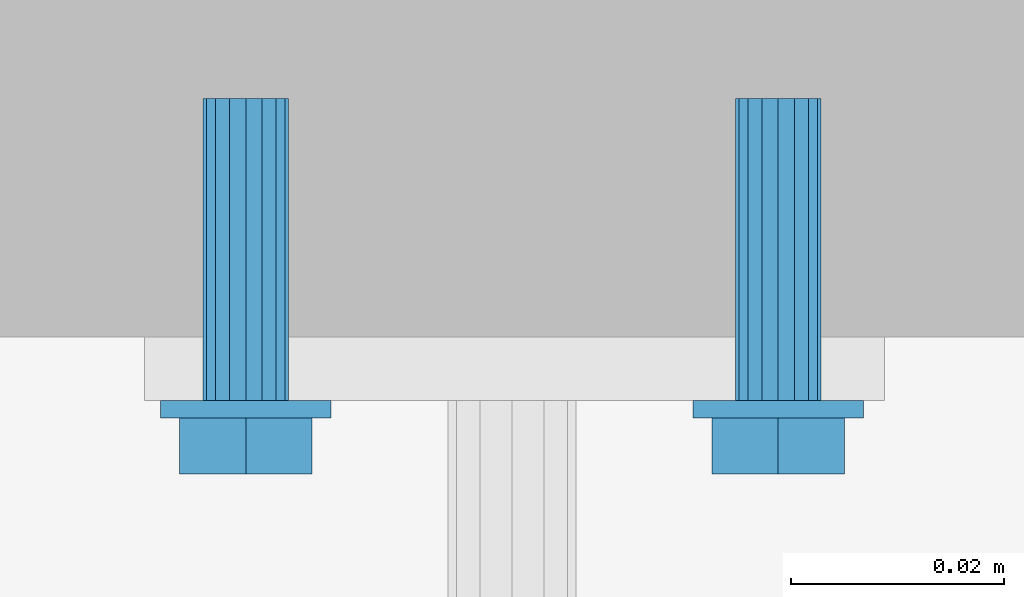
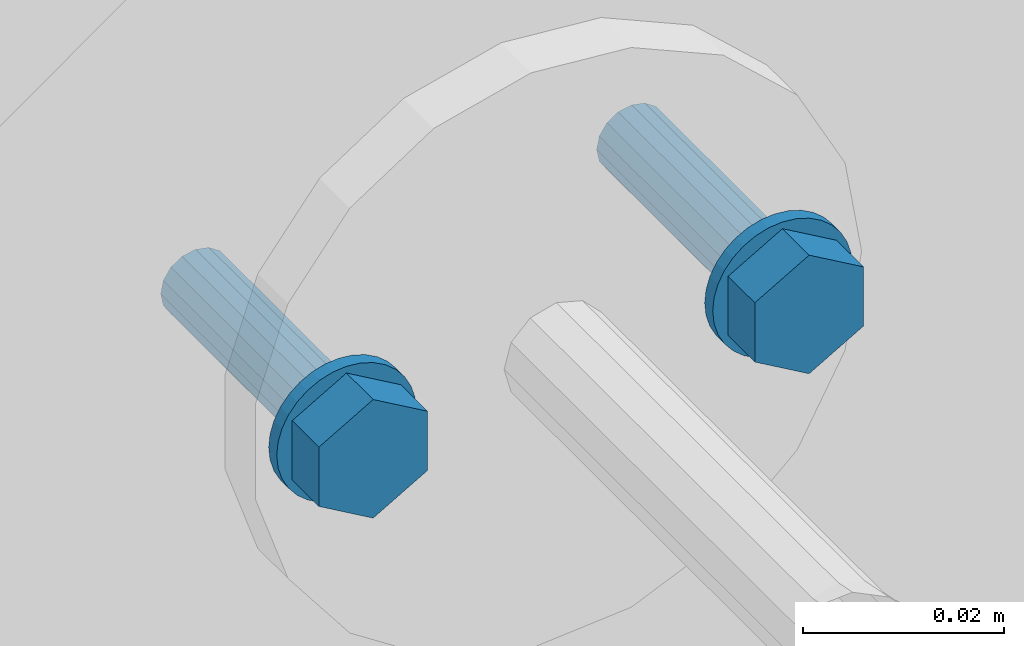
# One storey, part 364 of 410: 1 mechanical fastener.
"""IFC2X3 building model written with IfcOpenShell, lengths in millimetres."""

from ifc_helpers import new_model, entity, si_unit, converted_unit, origin_with_axes, place, context, project, spatial, faceted_brep, element, save


model = new_model("IFC2X3")

# Units and contexts
model_context = context("Model", 3, precision=1e-09, world=origin_with_axes())
ifc_project = project(units=[si_unit("LENGTHUNIT", "METRE", prefix="MILLI"), si_unit("AREAUNIT", "SQUARE_METRE"), si_unit("VOLUMEUNIT", "CUBIC_METRE"), converted_unit("PLANEANGLEUNIT", "DEGREE", entity("IfcPlaneAngleMeasure", 0.01745329), si_unit("PLANEANGLEUNIT", "RADIAN"), dimensions=[0, 0, 0, 0, 0, 0, 0])], contexts=[model_context])

# Site, building, storey
site_placement = place(None, origin_with_axes())
site = spatial("IfcSite", under=ifc_project, at=site_placement, Name="mKR Teilneubau & Sanierung BA1 - Ostfildern", CompositionType="ELEMENT")
building_placement = place(site_placement, origin_with_axes())
building = spatial("IfcBuilding", under=site, at=building_placement, Name="Struktur 1", CompositionType="ELEMENT")
storey_placement = place(building_placement, origin_with_axes())
storey = spatial("IfcBuildingStorey", under=building, at=storey_placement, Name="Default Storey", CompositionType="ELEMENT", Elevation=0.0)

# Mechanical fastener
mechanical_fastener_placement = place(None, origin_with_axes())
element("IfcMechanicalFastener", 1, at=mechanical_fastener_placement, inside=storey, ObjectType="-", NominalDiameter=8.0, NominalLength=30.0, context=model_context, shape_type="Brep", body=[
    faceted_brep([(2126.999216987, 18612.400061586, -1413.0), (2126.999216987, 18614.000061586, -1413.0), (2127.152934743, 18614.000061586, -1414.560722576), (2127.152934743, 18612.400061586, -1414.560722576), (2127.608180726, 18614.000061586, -1416.061467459), (2127.608180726, 18612.400061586, -1416.061467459), (2128.347460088, 18614.000061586, -1417.444561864), (2128.347460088, 18612.400061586, -1417.444561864), (2129.342362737, 18614.000061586, -1418.65685425), (2129.342362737, 18612.400061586, -1418.65685425), (2130.554655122, 18614.000061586, -1419.651756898), (2130.554655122, 18612.400061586, -1419.651756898), (2131.937749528, 18614.000061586, -1420.39103626), (2131.937749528, 18612.400061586, -1420.39103626), (2133.43849441, 18614.000061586, -1420.846282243), (2133.43849441, 18612.400061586, -1420.846282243), (2134.999216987, 18614.000061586, -1421.0), (2134.999216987, 18612.400061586, -1421.0), (2136.559939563, 18614.000061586, -1420.846282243), (2136.559939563, 18612.400061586, -1420.846282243), (2138.060684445, 18614.000061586, -1420.39103626), (2138.060684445, 18612.400061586, -1420.39103626), (2139.443778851, 18614.000061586, -1419.651756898), (2139.443778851, 18612.400061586, -1419.651756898), (2140.656071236, 18614.000061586, -1418.65685425), (2140.656071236, 18612.400061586, -1418.65685425), (2141.650973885, 18614.000061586, -1417.444561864), (2141.650973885, 18612.400061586, -1417.444561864), (2142.390253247, 18614.000061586, -1416.061467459), (2142.390253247, 18612.400061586, -1416.061467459), (2142.84549923, 18614.000061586, -1414.560722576), (2142.84549923, 18612.400061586, -1414.560722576), (2142.999216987, 18614.000061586, -1413.0), (2142.999216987, 18612.400061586, -1413.0), (2142.84549923, 18614.000061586, -1411.439277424), (2142.84549923, 18612.400061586, -1411.439277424), (2142.390253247, 18614.000061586, -1409.938532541), (2142.390253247, 18612.400061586, -1409.938532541), (2141.650973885, 18614.000061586, -1408.555438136), (2141.650973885, 18612.400061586, -1408.555438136), (2140.656071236, 18614.000061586, -1407.343145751), (2140.656071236, 18612.400061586, -1407.343145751), (2139.443778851, 18614.000061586, -1406.348243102), (2139.443778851, 18612.400061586, -1406.348243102), (2138.060684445, 18614.000061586, -1405.60896374), (2138.060684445, 18612.400061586, -1405.60896374), (2136.559939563, 18614.000061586, -1405.153717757), (2136.559939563, 18612.400061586, -1405.153717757), (2134.999216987, 18614.000061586, -1405.0), (2134.999216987, 18612.400061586, -1405.0), (2133.43849441, 18614.000061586, -1405.153717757), (2133.43849441, 18612.400061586, -1405.153717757), (2131.937749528, 18614.000061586, -1405.60896374), (2131.937749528, 18612.400061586, -1405.60896374), (2130.554655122, 18614.000061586, -1406.348243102), (2130.554655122, 18612.400061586, -1406.348243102), (2129.342362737, 18614.000061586, -1407.343145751), (2129.342362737, 18612.400061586, -1407.343145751), (2128.347460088, 18614.000061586, -1408.555438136), (2128.347460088, 18612.400061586, -1408.555438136), (2127.608180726, 18614.000061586, -1409.938532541), (2127.608180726, 18612.400061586, -1409.938532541), (2127.152934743, 18614.000061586, -1411.439277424), (2127.152934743, 18612.400061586, -1411.439277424)], [[[0, 1, 2, 3]], [[3, 2, 4, 5]], [[5, 4, 6, 7]], [[7, 6, 8, 9]], [[9, 8, 10, 11]], [[11, 10, 12, 13]], [[13, 12, 14, 15]], [[15, 14, 16, 17]], [[17, 16, 18, 19]], [[19, 18, 20, 21]], [[21, 20, 22, 23]], [[23, 22, 24, 25]], [[25, 24, 26, 27]], [[27, 26, 28, 29]], [[29, 28, 30, 31]], [[31, 30, 32, 33]], [[33, 32, 34, 35]], [[35, 34, 36, 37]], [[37, 36, 38, 39]], [[39, 38, 40, 41]], [[41, 40, 42, 43]], [[43, 42, 44, 45]], [[45, 44, 46, 47]], [[47, 46, 48, 49]], [[49, 48, 50, 51]], [[51, 50, 52, 53]], [[53, 52, 54, 55]], [[55, 54, 56, 57]], [[57, 56, 58, 59]], [[59, 58, 60, 61]], [[61, 60, 62, 63]], [[63, 62, 1, 0]], [[0, 3, 5, 7, 9, 11, 13, 15, 17, 19, 21, 23, 25, 27, 29, 31, 33, 35, 37, 39, 41, 43, 45, 47, 49, 51, 53, 55, 57, 59, 61, 63]], [[1, 62, 60, 58, 56, 54, 52, 50, 48, 46, 44, 42, 40, 38, 36, 34, 32, 30, 28, 26, 24, 22, 20, 18, 16, 14, 12, 10, 8, 6, 4, 2]]]),
    faceted_brep([(2076.999216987, 18612.400061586, -1413.0), (2076.999216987, 18614.000061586, -1413.0), (2077.152934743, 18614.000061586, -1414.560722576), (2077.152934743, 18612.400061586, -1414.560722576), (2077.608180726, 18614.000061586, -1416.061467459), (2077.608180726, 18612.400061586, -1416.061467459), (2078.347460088, 18614.000061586, -1417.444561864), (2078.347460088, 18612.400061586, -1417.444561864), (2079.342362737, 18614.000061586, -1418.65685425), (2079.342362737, 18612.400061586, -1418.65685425), (2080.554655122, 18614.000061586, -1419.651756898), (2080.554655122, 18612.400061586, -1419.651756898), (2081.937749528, 18614.000061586, -1420.39103626), (2081.937749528, 18612.400061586, -1420.39103626), (2083.43849441, 18614.000061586, -1420.846282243), (2083.43849441, 18612.400061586, -1420.846282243), (2084.999216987, 18614.000061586, -1421.0), (2084.999216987, 18612.400061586, -1421.0), (2086.559939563, 18614.000061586, -1420.846282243), (2086.559939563, 18612.400061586, -1420.846282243), (2088.060684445, 18614.000061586, -1420.39103626), (2088.060684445, 18612.400061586, -1420.39103626), (2089.443778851, 18614.000061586, -1419.651756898), (2089.443778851, 18612.400061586, -1419.651756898), (2090.656071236, 18614.000061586, -1418.65685425), (2090.656071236, 18612.400061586, -1418.65685425), (2091.650973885, 18614.000061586, -1417.444561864), (2091.650973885, 18612.400061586, -1417.444561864), (2092.390253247, 18614.000061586, -1416.061467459), (2092.390253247, 18612.400061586, -1416.061467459), (2092.84549923, 18614.000061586, -1414.560722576), (2092.84549923, 18612.400061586, -1414.560722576), (2092.999216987, 18614.000061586, -1413.0), (2092.999216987, 18612.400061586, -1413.0), (2092.84549923, 18614.000061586, -1411.439277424), (2092.84549923, 18612.400061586, -1411.439277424), (2092.390253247, 18614.000061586, -1409.938532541), (2092.390253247, 18612.400061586, -1409.938532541), (2091.650973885, 18614.000061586, -1408.555438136), (2091.650973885, 18612.400061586, -1408.555438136), (2090.656071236, 18614.000061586, -1407.343145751), (2090.656071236, 18612.400061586, -1407.343145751), (2089.443778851, 18614.000061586, -1406.348243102), (2089.443778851, 18612.400061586, -1406.348243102), (2088.060684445, 18614.000061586, -1405.60896374), (2088.060684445, 18612.400061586, -1405.60896374), (2086.559939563, 18614.000061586, -1405.153717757), (2086.559939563, 18612.400061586, -1405.153717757), (2084.999216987, 18614.000061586, -1405.0), (2084.999216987, 18612.400061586, -1405.0), (2083.43849441, 18614.000061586, -1405.153717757), (2083.43849441, 18612.400061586, -1405.153717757), (2081.937749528, 18614.000061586, -1405.60896374), (2081.937749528, 18612.400061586, -1405.60896374), (2080.554655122, 18614.000061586, -1406.348243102), (2080.554655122, 18612.400061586, -1406.348243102), (2079.342362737, 18614.000061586, -1407.343145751), (2079.342362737, 18612.400061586, -1407.343145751), (2078.347460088, 18614.000061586, -1408.555438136), (2078.347460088, 18612.400061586, -1408.555438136), (2077.608180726, 18614.000061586, -1409.938532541), (2077.608180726, 18612.400061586, -1409.938532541), (2077.152934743, 18614.000061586, -1411.439277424), (2077.152934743, 18612.400061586, -1411.439277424)], [[[0, 1, 2, 3]], [[3, 2, 4, 5]], [[5, 4, 6, 7]], [[7, 6, 8, 9]], [[9, 8, 10, 11]], [[11, 10, 12, 13]], [[13, 12, 14, 15]], [[15, 14, 16, 17]], [[17, 16, 18, 19]], [[19, 18, 20, 21]], [[21, 20, 22, 23]], [[23, 22, 24, 25]], [[25, 24, 26, 27]], [[27, 26, 28, 29]], [[29, 28, 30, 31]], [[31, 30, 32, 33]], [[33, 32, 34, 35]], [[35, 34, 36, 37]], [[37, 36, 38, 39]], [[39, 38, 40, 41]], [[41, 40, 42, 43]], [[43, 42, 44, 45]], [[45, 44, 46, 47]], [[47, 46, 48, 49]], [[49, 48, 50, 51]], [[51, 50, 52, 53]], [[53, 52, 54, 55]], [[55, 54, 56, 57]], [[57, 56, 58, 59]], [[59, 58, 60, 61]], [[61, 60, 62, 63]], [[63, 62, 1, 0]], [[0, 3, 5, 7, 9, 11, 13, 15, 17, 19, 21, 23, 25, 27, 29, 31, 33, 35, 37, 39, 41, 43, 45, 47, 49, 51, 53, 55, 57, 59, 61, 63]], [[1, 62, 60, 58, 56, 54, 52, 50, 48, 46, 44, 42, 40, 38, 36, 34, 32, 30, 28, 26, 24, 22, 20, 18, 16, 14, 12, 10, 8, 6, 4, 2]]]),
    faceted_brep([(2141.22593964, 18612.400061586, -1416.595), (2141.22593964, 18607.100061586, -1416.595), (2134.999216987, 18607.100061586, -1420.19), (2134.999216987, 18612.400061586, -1420.19), (2128.772494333, 18607.100061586, -1416.595), (2128.772494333, 18612.400061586, -1416.595), (2128.772494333, 18607.100061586, -1409.405), (2128.772494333, 18612.400061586, -1409.405), (2134.999216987, 18607.100061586, -1405.81), (2134.999216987, 18612.400061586, -1405.81), (2141.22593964, 18607.100061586, -1409.405), (2141.22593964, 18612.400061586, -1409.405)], [[[0, 1, 2, 3]], [[3, 2, 4, 5]], [[5, 4, 6, 7]], [[7, 6, 8, 9]], [[9, 8, 10, 11]], [[11, 10, 1, 0]], [[4, 2, 1, 10, 8, 6]], [[0, 3, 5, 7, 9, 11]]]),
    faceted_brep([(2091.22593964, 18612.400061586, -1416.595), (2091.22593964, 18607.100061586, -1416.595), (2084.999216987, 18607.100061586, -1420.19), (2084.999216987, 18612.400061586, -1420.19), (2078.772494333, 18607.100061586, -1416.595), (2078.772494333, 18612.400061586, -1416.595), (2078.772494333, 18607.100061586, -1409.405), (2078.772494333, 18612.400061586, -1409.405), (2084.999216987, 18607.100061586, -1405.81), (2084.999216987, 18612.400061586, -1405.81), (2091.22593964, 18607.100061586, -1409.405), (2091.22593964, 18612.400061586, -1409.405)], [[[0, 1, 2, 3]], [[3, 2, 4, 5]], [[5, 4, 6, 7]], [[7, 6, 8, 9]], [[9, 8, 10, 11]], [[11, 10, 1, 0]], [[4, 2, 1, 10, 8, 6]], [[0, 3, 5, 7, 9, 11]]]),
    faceted_brep([(2130.999216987, 18614.000061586, -1413.0), (2130.999216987, 18624.000061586, -1413.0), (2131.303698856, 18624.000061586, -1414.530733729), (2131.303698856, 18614.000061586, -1414.530733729), (2132.170789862, 18624.000061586, -1415.828427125), (2132.170789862, 18614.000061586, -1415.828427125), (2133.468483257, 18624.000061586, -1416.69551813), (2133.468483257, 18614.000061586, -1416.69551813), (2134.999216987, 18624.000061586, -1417.0), (2134.999216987, 18614.000061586, -1417.0), (2136.529950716, 18624.000061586, -1416.69551813), (2136.529950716, 18614.000061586, -1416.69551813), (2137.827644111, 18624.000061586, -1415.828427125), (2137.827644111, 18614.000061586, -1415.828427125), (2138.694735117, 18624.000061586, -1414.530733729), (2138.694735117, 18614.000061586, -1414.530733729), (2138.999216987, 18624.000061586, -1413.0), (2138.999216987, 18614.000061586, -1413.0), (2138.694735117, 18624.000061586, -1411.469266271), (2138.694735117, 18614.000061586, -1411.469266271), (2137.827644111, 18624.000061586, -1410.171572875), (2137.827644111, 18614.000061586, -1410.171572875), (2136.529950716, 18624.000061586, -1409.30448187), (2136.529950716, 18614.000061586, -1409.30448187), (2134.999216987, 18624.000061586, -1409.0), (2134.999216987, 18614.000061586, -1409.0), (2133.468483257, 18624.000061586, -1409.30448187), (2133.468483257, 18614.000061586, -1409.30448187), (2132.170789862, 18624.000061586, -1410.171572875), (2132.170789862, 18614.000061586, -1410.171572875), (2131.303698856, 18624.000061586, -1411.469266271), (2131.303698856, 18614.000061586, -1411.469266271)], [[[0, 1, 2, 3]], [[3, 2, 4, 5]], [[5, 4, 6, 7]], [[7, 6, 8, 9]], [[9, 8, 10, 11]], [[11, 10, 12, 13]], [[13, 12, 14, 15]], [[15, 14, 16, 17]], [[17, 16, 18, 19]], [[19, 18, 20, 21]], [[21, 20, 22, 23]], [[23, 22, 24, 25]], [[25, 24, 26, 27]], [[27, 26, 28, 29]], [[29, 28, 30, 31]], [[31, 30, 1, 0]], [[0, 3, 5, 7, 9, 11, 13, 15, 17, 19, 21, 23, 25, 27, 29, 31]], [[1, 30, 28, 26, 24, 22, 20, 18, 16, 14, 12, 10, 8, 6, 4, 2]]]),
    faceted_brep([(2080.999216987, 18614.000061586, -1413.0), (2080.999216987, 18624.000061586, -1413.0), (2081.303698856, 18624.000061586, -1414.530733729), (2081.303698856, 18614.000061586, -1414.530733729), (2082.170789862, 18624.000061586, -1415.828427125), (2082.170789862, 18614.000061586, -1415.828427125), (2083.468483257, 18624.000061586, -1416.69551813), (2083.468483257, 18614.000061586, -1416.69551813), (2084.999216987, 18624.000061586, -1417.0), (2084.999216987, 18614.000061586, -1417.0), (2086.529950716, 18624.000061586, -1416.69551813), (2086.529950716, 18614.000061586, -1416.69551813), (2087.827644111, 18624.000061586, -1415.828427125), (2087.827644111, 18614.000061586, -1415.828427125), (2088.694735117, 18624.000061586, -1414.530733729), (2088.694735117, 18614.000061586, -1414.530733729), (2088.999216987, 18624.000061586, -1413.0), (2088.999216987, 18614.000061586, -1413.0), (2088.694735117, 18624.000061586, -1411.469266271), (2088.694735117, 18614.000061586, -1411.469266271), (2087.827644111, 18624.000061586, -1410.171572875), (2087.827644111, 18614.000061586, -1410.171572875), (2086.529950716, 18624.000061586, -1409.30448187), (2086.529950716, 18614.000061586, -1409.30448187), (2084.999216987, 18624.000061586, -1409.0), (2084.999216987, 18614.000061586, -1409.0), (2083.468483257, 18624.000061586, -1409.30448187), (2083.468483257, 18614.000061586, -1409.30448187), (2082.170789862, 18624.000061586, -1410.171572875), (2082.170789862, 18614.000061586, -1410.171572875), (2081.303698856, 18624.000061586, -1411.469266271), (2081.303698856, 18614.000061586, -1411.469266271)], [[[0, 1, 2, 3]], [[3, 2, 4, 5]], [[5, 4, 6, 7]], [[7, 6, 8, 9]], [[9, 8, 10, 11]], [[11, 10, 12, 13]], [[13, 12, 14, 15]], [[15, 14, 16, 17]], [[17, 16, 18, 19]], [[19, 18, 20, 21]], [[21, 20, 22, 23]], [[23, 22, 24, 25]], [[25, 24, 26, 27]], [[27, 26, 28, 29]], [[29, 28, 30, 31]], [[31, 30, 1, 0]], [[0, 3, 5, 7, 9, 11, 13, 15, 17, 19, 21, 23, 25, 27, 29, 31]], [[1, 30, 28, 26, 24, 22, 20, 18, 16, 14, 12, 10, 8, 6, 4, 2]]]),
    faceted_brep([(2130.999216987, 18624.000061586, -1413.0), (2130.999216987, 18642.400061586, -1413.0), (2131.303698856, 18642.400061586, -1414.530733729), (2131.303698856, 18624.000061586, -1414.530733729), (2132.170789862, 18642.400061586, -1415.828427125), (2132.170789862, 18624.000061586, -1415.828427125), (2133.468483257, 18642.400061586, -1416.69551813), (2133.468483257, 18624.000061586, -1416.69551813), (2134.999216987, 18642.400061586, -1417.0), (2134.999216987, 18624.000061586, -1417.0), (2136.529950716, 18642.400061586, -1416.69551813), (2136.529950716, 18624.000061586, -1416.69551813), (2137.827644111, 18642.400061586, -1415.828427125), (2137.827644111, 18624.000061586, -1415.828427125), (2138.694735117, 18642.400061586, -1414.530733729), (2138.694735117, 18624.000061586, -1414.530733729), (2138.999216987, 18642.400061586, -1413.0), (2138.999216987, 18624.000061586, -1413.0), (2138.694735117, 18642.400061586, -1411.469266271), (2138.694735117, 18624.000061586, -1411.469266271), (2137.827644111, 18642.400061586, -1410.171572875), (2137.827644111, 18624.000061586, -1410.171572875), (2136.529950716, 18642.400061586, -1409.30448187), (2136.529950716, 18624.000061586, -1409.30448187), (2134.999216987, 18642.400061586, -1409.0), (2134.999216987, 18624.000061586, -1409.0), (2133.468483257, 18642.400061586, -1409.30448187), (2133.468483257, 18624.000061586, -1409.30448187), (2132.170789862, 18642.400061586, -1410.171572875), (2132.170789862, 18624.000061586, -1410.171572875), (2131.303698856, 18642.400061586, -1411.469266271), (2131.303698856, 18624.000061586, -1411.469266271)], [[[0, 1, 2, 3]], [[3, 2, 4, 5]], [[5, 4, 6, 7]], [[7, 6, 8, 9]], [[9, 8, 10, 11]], [[11, 10, 12, 13]], [[13, 12, 14, 15]], [[15, 14, 16, 17]], [[17, 16, 18, 19]], [[19, 18, 20, 21]], [[21, 20, 22, 23]], [[23, 22, 24, 25]], [[25, 24, 26, 27]], [[27, 26, 28, 29]], [[29, 28, 30, 31]], [[31, 30, 1, 0]], [[0, 3, 5, 7, 9, 11, 13, 15, 17, 19, 21, 23, 25, 27, 29, 31]], [[1, 30, 28, 26, 24, 22, 20, 18, 16, 14, 12, 10, 8, 6, 4, 2]]]),
    faceted_brep([(2080.999216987, 18624.000061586, -1413.0), (2080.999216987, 18642.400061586, -1413.0), (2081.303698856, 18642.400061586, -1414.530733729), (2081.303698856, 18624.000061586, -1414.530733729), (2082.170789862, 18642.400061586, -1415.828427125), (2082.170789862, 18624.000061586, -1415.828427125), (2083.468483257, 18642.400061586, -1416.69551813), (2083.468483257, 18624.000061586, -1416.69551813), (2084.999216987, 18642.400061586, -1417.0), (2084.999216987, 18624.000061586, -1417.0), (2086.529950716, 18642.400061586, -1416.69551813), (2086.529950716, 18624.000061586, -1416.69551813), (2087.827644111, 18642.400061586, -1415.828427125), (2087.827644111, 18624.000061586, -1415.828427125), (2088.694735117, 18642.400061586, -1414.530733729), (2088.694735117, 18624.000061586, -1414.530733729), (2088.999216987, 18642.400061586, -1413.0), (2088.999216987, 18624.000061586, -1413.0), (2088.694735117, 18642.400061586, -1411.469266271), (2088.694735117, 18624.000061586, -1411.469266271), (2087.827644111, 18642.400061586, -1410.171572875), (2087.827644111, 18624.000061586, -1410.171572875), (2086.529950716, 18642.400061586, -1409.30448187), (2086.529950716, 18624.000061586, -1409.30448187), (2084.999216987, 18642.400061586, -1409.0), (2084.999216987, 18624.000061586, -1409.0), (2083.468483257, 18642.400061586, -1409.30448187), (2083.468483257, 18624.000061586, -1409.30448187), (2082.170789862, 18642.400061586, -1410.171572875), (2082.170789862, 18624.000061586, -1410.171572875), (2081.303698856, 18642.400061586, -1411.469266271), (2081.303698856, 18624.000061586, -1411.469266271)], [[[0, 1, 2, 3]], [[3, 2, 4, 5]], [[5, 4, 6, 7]], [[7, 6, 8, 9]], [[9, 8, 10, 11]], [[11, 10, 12, 13]], [[13, 12, 14, 15]], [[15, 14, 16, 17]], [[17, 16, 18, 19]], [[19, 18, 20, 21]], [[21, 20, 22, 23]], [[23, 22, 24, 25]], [[25, 24, 26, 27]], [[27, 26, 28, 29]], [[29, 28, 30, 31]], [[31, 30, 1, 0]], [[0, 3, 5, 7, 9, 11, 13, 15, 17, 19, 21, 23, 25, 27, 29, 31]], [[1, 30, 28, 26, 24, 22, 20, 18, 16, 14, 12, 10, 8, 6, 4, 2]]]),
])

save(model, "model.ifc")
